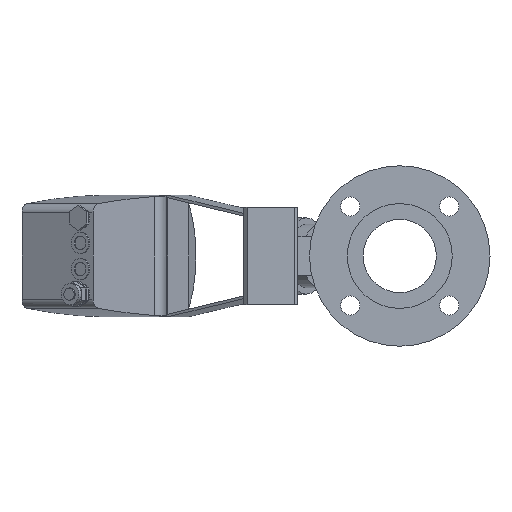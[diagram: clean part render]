
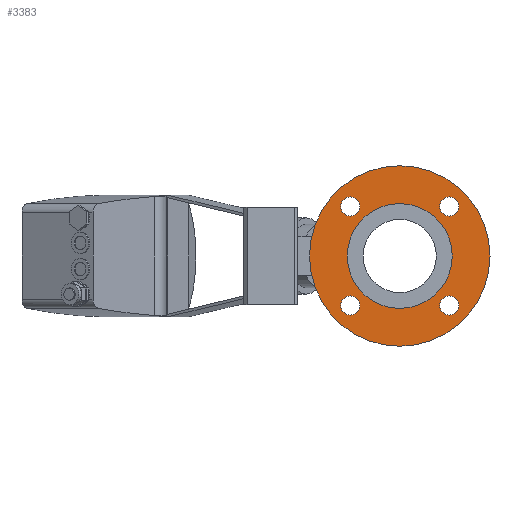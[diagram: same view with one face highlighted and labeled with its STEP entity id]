
A CAD part, left-side view. The second image highlights one B-rep face of the part: STEP entity #3383.
In plain terms, the highlighted planar face has unit normal (-1, 0, 0).
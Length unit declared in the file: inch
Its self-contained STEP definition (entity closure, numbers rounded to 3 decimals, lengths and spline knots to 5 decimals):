
#68=FACE_BOUND('',#470,.T.);
#69=FACE_BOUND('',#471,.T.);
#70=FACE_BOUND('',#472,.T.);
#71=FACE_BOUND('',#473,.T.);
#72=FACE_BOUND('',#474,.T.);
#142=PLANE('',#3694);
#276=FACE_OUTER_BOUND('',#469,.T.);
#469=EDGE_LOOP('',(#2355,#2356));
#470=EDGE_LOOP('',(#2357));
#471=EDGE_LOOP('',(#2358));
#472=EDGE_LOOP('',(#2359));
#473=EDGE_LOOP('',(#2360));
#474=EDGE_LOOP('',(#2361,#2362));
#1150=CIRCLE('',#3596,0.375);
#1152=CIRCLE('',#3599,0.375);
#1154=CIRCLE('',#3602,0.375);
#1156=CIRCLE('',#3605,0.375);
#1205=CIRCLE('',#3695,3.545);
#1206=CIRCLE('',#3696,3.545);
#1207=CIRCLE('',#3697,2.06);
#1208=CIRCLE('',#3698,2.06);
#1348=VERTEX_POINT('',#5037);
#1350=VERTEX_POINT('',#5043);
#1352=VERTEX_POINT('',#5049);
#1354=VERTEX_POINT('',#5055);
#1431=VERTEX_POINT('',#5416);
#1432=VERTEX_POINT('',#5417);
#1433=VERTEX_POINT('',#5420);
#1434=VERTEX_POINT('',#5421);
#1665=EDGE_CURVE('',#1348,#1348,#1150,.T.);
#1668=EDGE_CURVE('',#1350,#1350,#1152,.T.);
#1671=EDGE_CURVE('',#1352,#1352,#1154,.T.);
#1674=EDGE_CURVE('',#1354,#1354,#1156,.T.);
#1785=EDGE_CURVE('',#1431,#1432,#1205,.T.);
#1786=EDGE_CURVE('',#1432,#1431,#1206,.T.);
#1787=EDGE_CURVE('',#1433,#1434,#1207,.T.);
#1788=EDGE_CURVE('',#1434,#1433,#1208,.T.);
#2355=ORIENTED_EDGE('',*,*,#1785,.F.);
#2356=ORIENTED_EDGE('',*,*,#1786,.F.);
#2357=ORIENTED_EDGE('',*,*,#1665,.T.);
#2358=ORIENTED_EDGE('',*,*,#1668,.T.);
#2359=ORIENTED_EDGE('',*,*,#1671,.T.);
#2360=ORIENTED_EDGE('',*,*,#1674,.T.);
#2361=ORIENTED_EDGE('',*,*,#1787,.T.);
#2362=ORIENTED_EDGE('',*,*,#1788,.T.);
#3383=ADVANCED_FACE('',(#276,#68,#69,#70,#71,#72),#142,.F.);
#3596=AXIS2_PLACEMENT_3D('',#5038,#3997,#3998);
#3599=AXIS2_PLACEMENT_3D('',#5044,#4004,#4005);
#3602=AXIS2_PLACEMENT_3D('',#5050,#4011,#4012);
#3605=AXIS2_PLACEMENT_3D('',#5056,#4018,#4019);
#3694=AXIS2_PLACEMENT_3D('',#5415,#4251,#4252);
#3695=AXIS2_PLACEMENT_3D('',#5418,#4253,#4254);
#3696=AXIS2_PLACEMENT_3D('',#5419,#4255,#4256);
#3697=AXIS2_PLACEMENT_3D('',#5422,#4257,#4258);
#3698=AXIS2_PLACEMENT_3D('',#5423,#4259,#4260);
#3997=DIRECTION('center_axis',(1.,0.,0.));
#3998=DIRECTION('ref_axis',(0.,1.,0.));
#4004=DIRECTION('center_axis',(1.,0.,0.));
#4005=DIRECTION('ref_axis',(0.,0.,-1.));
#4011=DIRECTION('center_axis',(1.,0.,0.));
#4012=DIRECTION('ref_axis',(0.,-1.,0.));
#4018=DIRECTION('center_axis',(1.,0.,0.));
#4019=DIRECTION('ref_axis',(0.,0.,1.));
#4251=DIRECTION('center_axis',(1.,0.,0.));
#4252=DIRECTION('ref_axis',(0.,0.,-1.));
#4253=DIRECTION('center_axis',(1.,0.,0.));
#4254=DIRECTION('ref_axis',(0.,0.,-1.));
#4255=DIRECTION('center_axis',(1.,0.,0.));
#4256=DIRECTION('ref_axis',(0.,0.,-1.));
#4257=DIRECTION('center_axis',(1.,0.,0.));
#4258=DIRECTION('ref_axis',(0.,0.,-1.));
#4259=DIRECTION('center_axis',(1.,0.,0.));
#4260=DIRECTION('ref_axis',(0.,0.,-1.));
#5037=CARTESIAN_POINT('',(-5.65,-2.31954,-1.94454));
#5038=CARTESIAN_POINT('Origin',(-5.65,-1.94454,-1.94454));
#5043=CARTESIAN_POINT('',(-5.65,-1.94454,2.31954));
#5044=CARTESIAN_POINT('Origin',(-5.65,-1.94454,1.94454));
#5049=CARTESIAN_POINT('',(-5.65,2.31954,1.94454));
#5050=CARTESIAN_POINT('Origin',(-5.65,1.94454,1.94454));
#5055=CARTESIAN_POINT('',(-5.65,1.94454,-2.31954));
#5056=CARTESIAN_POINT('Origin',(-5.65,1.94454,-1.94454));
#5415=CARTESIAN_POINT('Origin',(-5.65,2.06,0.));
#5416=CARTESIAN_POINT('',(-5.65,3.545,0.));
#5417=CARTESIAN_POINT('',(-5.65,-3.545,0.));
#5418=CARTESIAN_POINT('Origin',(-5.65,0.,0.));
#5419=CARTESIAN_POINT('Origin',(-5.65,0.,0.));
#5420=CARTESIAN_POINT('',(-5.65,2.06,0.));
#5421=CARTESIAN_POINT('',(-5.65,-2.06,0.));
#5422=CARTESIAN_POINT('Origin',(-5.65,0.,0.));
#5423=CARTESIAN_POINT('Origin',(-5.65,0.,0.));
